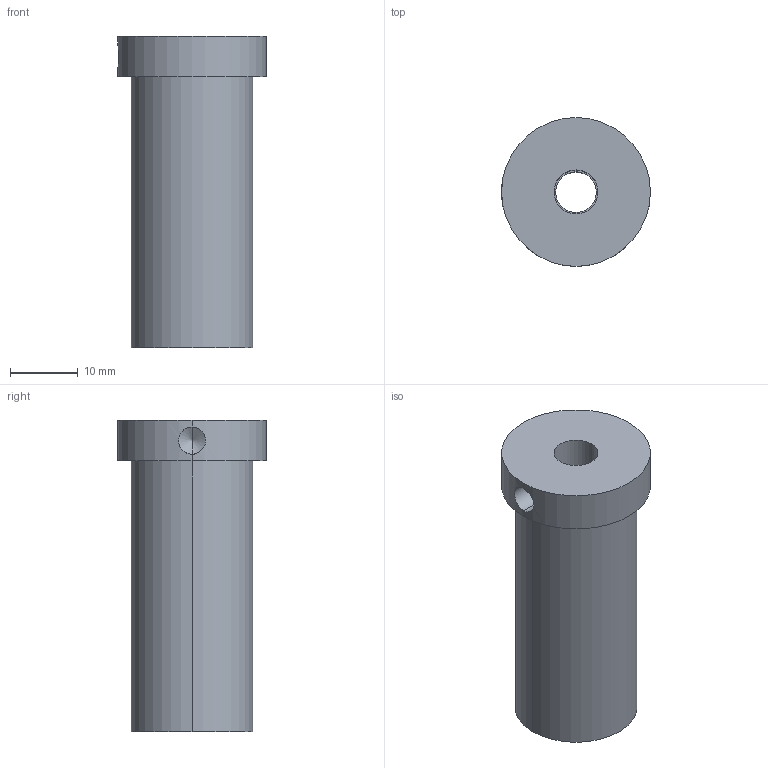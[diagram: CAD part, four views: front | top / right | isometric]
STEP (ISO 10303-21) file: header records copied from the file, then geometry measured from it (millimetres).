
FILE_DESCRIPTION (( 'STEP AP214' ), '1' );
FILE_NAME ('BR53-18x46.STEP', '2020-01-30T11:32:23', ( 'August' ), ( '' ), 'SwSTEP 2.0', 'SolidWorks 2018', '' );
FILE_SCHEMA (( 'AUTOMOTIVE_DESIGN' ));
Length unit declared in the file: millimetre
Products named in the file (1): BR53-18x46
Bounding box: 22 x 22 x 46 mm (x, y, z)
Volume: 10974.1 mm3; surface area: 4353.8 mm2
Topology: 1 solids, 1 shells, 21 faces, 45 edges, 27 vertices
Faces by surface type: cylinder 12, plane 5, cone 4
Entity records: 651 total; most frequent: CARTESIAN_POINT 148, DIRECTION 109, ORIENTED_EDGE 86, AXIS2_PLACEMENT_3D 46, EDGE_CURVE 43, VERTEX_POINT 27, EDGE_LOOP 26, CIRCLE 24
